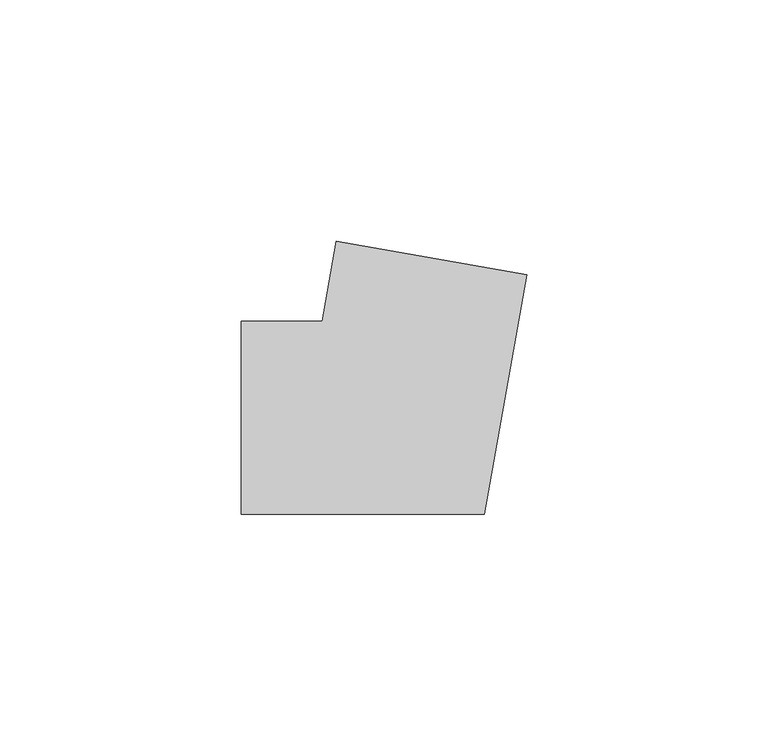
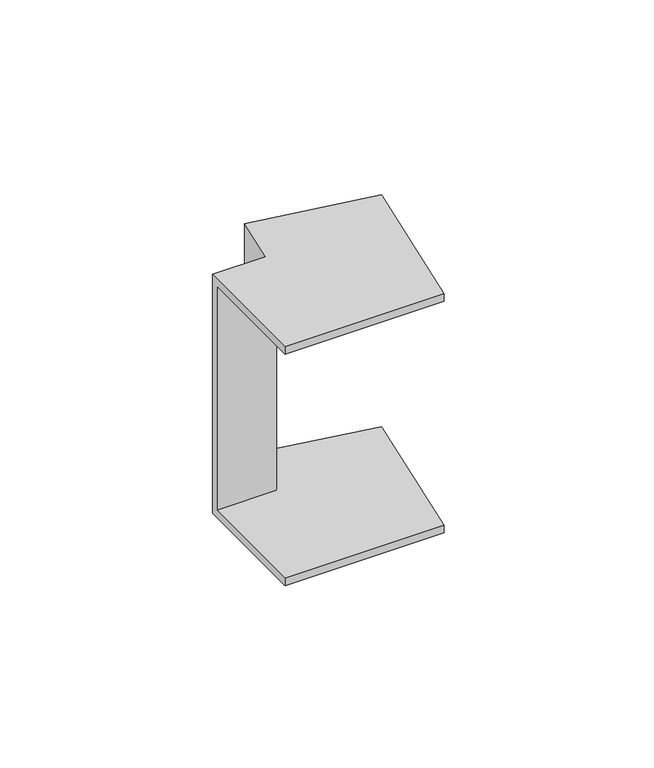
"""IFC4 building model written with IfcOpenShell, lengths in millimetres: cable carrier fitting geometry, КНС_УголВнешний_ILC_DKC : Угол внешний_DKC."""

from ifc_helpers import new_model, si_unit, origin, place, context, project, spatial, faceted_brep, source, transform, mapped, element, save


def cable_carrier_fitting_8110d222(model_context):
    return source(origin(), model_context, "Body", "Brep", [
        faceted_brep([(-33.5639852, 20.0, 40.0), (-33.5639852, 20.0, -40.0), (-33.5639852, -20.0, -40.0), (-33.5639852, -20.0, -37.5), (-33.5639852, 17.5, -37.5), (-33.5639852, 17.5, 37.5), (-33.5639852, -20.0, 37.5), (-33.5639852, -20.0, 40.0), (-13.8678302, 36.5270364, 40.0), (25.5244799, 29.5811093, 40.0), (25.5244799, 29.5811093, 37.5), (-11.4058108, 36.092916, 37.5), (-11.4058108, 36.092916, -37.5), (25.5244799, 29.5811093, -37.5), (25.5244799, 29.5811093, -40.0), (-13.8678302, 36.5270364, -40.0), (-16.7819926, 20.0, 40.0), (-16.7819926, 20.0, -40.0), (16.7819926, -20.0, -40.0), (16.7819926, -20.0, -37.5), (-14.6842435, 17.5, -37.5), (-14.6842435, 17.5, 37.5), (16.7819926, -20.0, 37.5), (16.7819926, -20.0, 40.0)], [[[0, 1, 2, 3, 4, 5, 6, 7]], [[8, 9, 10, 11, 12, 13, 14, 15]], [[1, 0, 16, 17]], [[2, 1, 17, 15, 14, 18]], [[3, 2, 18, 19]], [[4, 3, 19, 13, 12, 20]], [[5, 4, 20, 21]], [[6, 5, 21, 11, 10, 22]], [[7, 6, 22, 23]], [[0, 7, 23, 9, 8, 16]], [[17, 16, 8, 15]], [[19, 18, 14, 13]], [[21, 20, 12, 11]], [[23, 22, 10, 9]]]),
    ])


if __name__ == "__main__":
    model = new_model("IFC4")
    model_context = context("Model", 3, world=origin())
    ifc_project = project(units=[si_unit("LENGTHUNIT", "METRE", prefix="MILLI")], contexts=[model_context])
    site = spatial("IfcSite", under=ifc_project)
    building = spatial("IfcBuilding", under=site)
    placement = place(None, origin())
    cable_carrier_fitting_shape = cable_carrier_fitting_8110d222(model_context)
    element("IfcCableCarrierFitting", 1, ObjectType="КНС_УголВнешний_ILC_DKC : Угол внешний_DKC", at=placement, inside=building, context=model_context, shape_type="MappedRepresentation", body=[
        mapped(cable_carrier_fitting_shape, transform((0.0, 0.0, 0.0), x_axis=(1.0, 0.0, 0.0), y_axis=(0.0, 1.0, 0.0), z_axis=(0.0, 0.0, 1.0))),
    ])
    save(model, "model.ifc")
